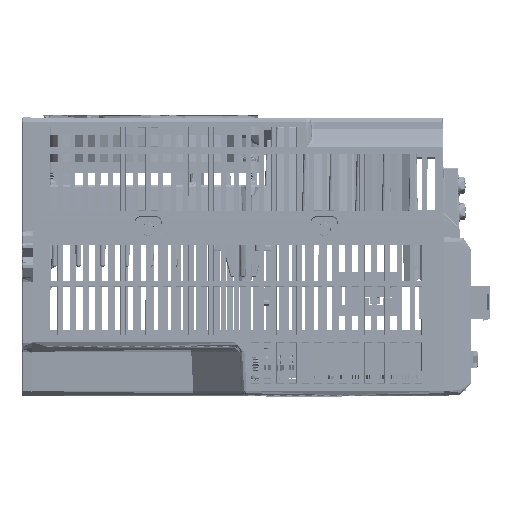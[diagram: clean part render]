
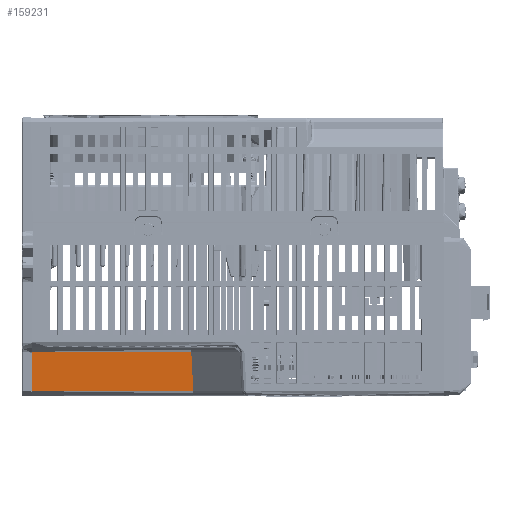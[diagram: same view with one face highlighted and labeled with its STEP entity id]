
A CAD part, left-side view. The second image highlights one B-rep face of the part: STEP entity #159231.
In plain terms, the highlighted planar face has unit normal (-0.999, 0, -0.052) as drawn and (0.999, 0, 0.052) by its records, which use the part's own axes.
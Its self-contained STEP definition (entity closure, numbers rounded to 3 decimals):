
#16157 = CARTESIAN_POINT ( 'NONE',  ( 25.039, 89.552, 45.287 ) ) ;
#26138 = LINE ( 'NONE', #235143, #609620 ) ;
#89863 = VERTEX_POINT ( 'NONE', #901655 ) ;
#115980 = DIRECTION ( 'NONE',  ( -0.999, 0., -0.052 ) ) ;
#117670 = DIRECTION ( 'NONE',  ( 0., -1., 0. ) ) ;
#122034 = LINE ( 'NONE', #463391, #818717 ) ;
#124022 = FACE_OUTER_BOUND ( 'NONE', #667911, .T. ) ;
#126084 = EDGE_CURVE ( 'NONE', #89863, #875088, #122034, .T. ) ;
#159231 = ADVANCED_FACE ( 'NONE', ( #124022 ), #411102, .F. ) ;
#172518 = LINE ( 'NONE', #186941, #700363 ) ;
#186941 = CARTESIAN_POINT ( 'NONE',  ( 25.039, 56.311, 45.287 ) ) ;
#235143 = CARTESIAN_POINT ( 'NONE',  ( 25.889, 89.411, 29.078 ) ) ;
#286023 = LINE ( 'NONE', #497393, #353685 ) ;
#309951 = ORIENTED_EDGE ( 'NONE', *, *, #126084, .F. ) ;
#353685 = VECTOR ( 'NONE', #921717, 1000. ) ;
#411102 = PLANE ( 'NONE',  #487356 ) ;
#463391 = CARTESIAN_POINT ( 'NONE',  ( 25.889, 56.102, 29.078 ) ) ;
#472115 = ORIENTED_EDGE ( 'NONE', *, *, #826278, .T. ) ;
#487356 = AXIS2_PLACEMENT_3D ( 'NONE', #540029, #115980, #618219 ) ;
#497393 = CARTESIAN_POINT ( 'NONE',  ( 25.009, 22.621, 45.862 ) ) ;
#540029 = CARTESIAN_POINT ( 'NONE',  ( 25.039, 89.954, 45.287 ) ) ;
#582361 = CARTESIAN_POINT ( 'NONE',  ( 25.039, 22.651, 45.287 ) ) ;
#590260 = VERTEX_POINT ( 'NONE', #16157 ) ;
#598190 = ORIENTED_EDGE ( 'NONE', *, *, #627394, .F. ) ;
#609620 = VECTOR ( 'NONE', #879090, 1000. ) ;
#618219 = DIRECTION ( 'NONE',  ( 0.052, 0., -0.999 ) ) ;
#627394 = EDGE_CURVE ( 'NONE', #875088, #741565, #286023, .T. ) ;
#667911 = EDGE_LOOP ( 'NONE', ( #800353, #472115, #598190, #309951 ) ) ;
#700363 = VECTOR ( 'NONE', #117670, 1000. ) ;
#731610 = EDGE_CURVE ( 'NONE', #89863, #590260, #26138, .T. ) ;
#741565 = VERTEX_POINT ( 'NONE', #582361 ) ;
#780843 = CARTESIAN_POINT ( 'NONE',  ( 25.889, 23.5, 29.078 ) ) ;
#800353 = ORIENTED_EDGE ( 'NONE', *, *, #731610, .T. ) ;
#818717 = VECTOR ( 'NONE', #890793, 1000. ) ;
#826278 = EDGE_CURVE ( 'NONE', #590260, #741565, #172518, .T. ) ;
#875088 = VERTEX_POINT ( 'NONE', #780843 ) ;
#879090 = DIRECTION ( 'NONE',  ( -0.052, 0.009, 0.999 ) ) ;
#890793 = DIRECTION ( 'NONE',  ( 0., -1., 0. ) ) ;
#901655 = CARTESIAN_POINT ( 'NONE',  ( 25.889, 89.411, 29.078 ) ) ;
#921717 = DIRECTION ( 'NONE',  ( -0.052, -0.052, 0.997 ) ) ;
